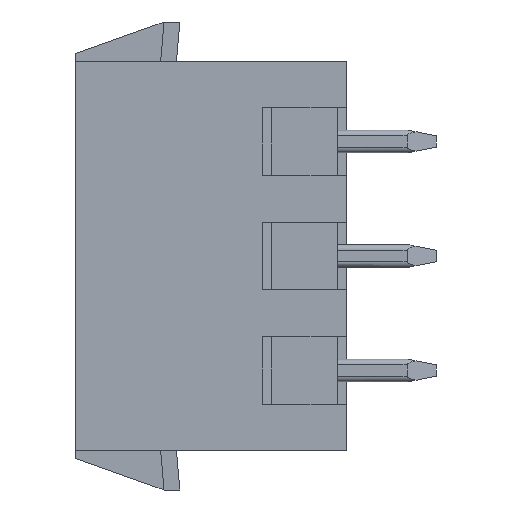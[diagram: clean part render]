
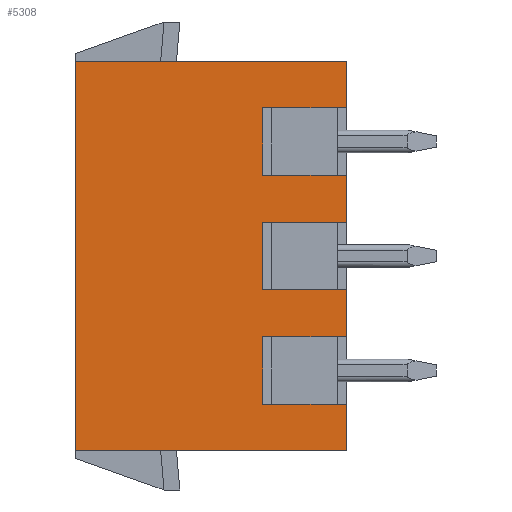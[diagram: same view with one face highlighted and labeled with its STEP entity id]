
A CAD part, left-side view. The second image highlights one B-rep face of the part: STEP entity #5308.
In plain terms, the highlighted planar face has unit normal (-1, 0, 0).
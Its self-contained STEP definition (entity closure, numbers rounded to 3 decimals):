
#89=DIRECTION('',(0.,0.,-1.));
#90=VECTOR('',#89,17.24);
#91=CARTESIAN_POINT('',(0.,12.,6.08));
#92=LINE('',#91,#90);
#204=DIRECTION('',(0.,1.,0.));
#205=VECTOR('',#204,12.);
#206=CARTESIAN_POINT('',(0.,0.,6.08));
#207=LINE('',#206,#205);
#1980=DIRECTION('',(0.,0.,-1.));
#1981=VECTOR('',#1980,3.);
#1982=CARTESIAN_POINT('',(0.,3.7,4.04));
#1983=LINE('',#1982,#1981);
#1984=DIRECTION('',(0.,-1.,0.));
#1985=VECTOR('',#1984,3.7);
#1986=CARTESIAN_POINT('',(0.,3.7,1.04));
#1987=LINE('',#1986,#1985);
#1988=DIRECTION('',(0.,0.,-1.));
#1989=VECTOR('',#1988,2.08);
#1990=CARTESIAN_POINT('',(0.,0.,1.04));
#1991=LINE('',#1990,#1989);
#1992=DIRECTION('',(0.,1.,0.));
#1993=VECTOR('',#1992,3.7);
#1994=CARTESIAN_POINT('',(0.,0.,-1.04));
#1995=LINE('',#1994,#1993);
#1996=DIRECTION('',(0.,0.,-1.));
#1997=VECTOR('',#1996,3.);
#1998=CARTESIAN_POINT('',(0.,3.7,-1.04));
#1999=LINE('',#1998,#1997);
#2000=DIRECTION('',(0.,-1.,0.));
#2001=VECTOR('',#2000,3.7);
#2002=CARTESIAN_POINT('',(0.,3.7,-4.04));
#2003=LINE('',#2002,#2001);
#2004=DIRECTION('',(0.,0.,-1.));
#2005=VECTOR('',#2004,2.08);
#2006=CARTESIAN_POINT('',(0.,0.,-4.04));
#2007=LINE('',#2006,#2005);
#2008=DIRECTION('',(0.,1.,0.));
#2009=VECTOR('',#2008,3.7);
#2010=CARTESIAN_POINT('',(0.,0.,-6.12));
#2011=LINE('',#2010,#2009);
#2012=DIRECTION('',(0.,0.,-1.));
#2013=VECTOR('',#2012,3.);
#2014=CARTESIAN_POINT('',(0.,3.7,-6.12));
#2015=LINE('',#2014,#2013);
#2016=DIRECTION('',(0.,-1.,0.));
#2017=VECTOR('',#2016,3.7);
#2018=CARTESIAN_POINT('',(0.,3.7,-9.12));
#2019=LINE('',#2018,#2017);
#2020=DIRECTION('',(0.,0.,-1.));
#2021=VECTOR('',#2020,2.04);
#2022=CARTESIAN_POINT('',(0.,0.,-9.12));
#2023=LINE('',#2022,#2021);
#2024=DIRECTION('',(0.,1.,0.));
#2025=VECTOR('',#2024,12.);
#2026=CARTESIAN_POINT('',(0.,0.,-11.16));
#2027=LINE('',#2026,#2025);
#2028=DIRECTION('',(0.,0.,-1.));
#2029=VECTOR('',#2028,2.04);
#2030=CARTESIAN_POINT('',(0.,0.,6.08));
#2031=LINE('',#2030,#2029);
#2032=DIRECTION('',(0.,1.,0.));
#2033=VECTOR('',#2032,3.7);
#2034=CARTESIAN_POINT('',(0.,0.,4.04));
#2035=LINE('',#2034,#2033);
#2204=CARTESIAN_POINT('',(0.,12.,-11.16));
#2205=VERTEX_POINT('',#2204);
#2206=CARTESIAN_POINT('',(0.,0.,-11.16));
#2207=VERTEX_POINT('',#2206);
#2256=CARTESIAN_POINT('',(0.,12.,6.08));
#2257=VERTEX_POINT('',#2256);
#2314=CARTESIAN_POINT('',(0.,0.,6.08));
#2315=VERTEX_POINT('',#2314);
#2463=CARTESIAN_POINT('',(0.,0.,-1.04));
#2464=VERTEX_POINT('',#2463);
#2465=CARTESIAN_POINT('',(0.,0.,1.04));
#2466=VERTEX_POINT('',#2465);
#2469=CARTESIAN_POINT('',(0.,3.7,-1.04));
#2470=VERTEX_POINT('',#2469);
#2534=CARTESIAN_POINT('',(0.,0.,-4.04));
#2535=VERTEX_POINT('',#2534);
#2536=CARTESIAN_POINT('',(0.,3.7,-4.04));
#2537=VERTEX_POINT('',#2536);
#2540=CARTESIAN_POINT('',(0.,0.,-6.12));
#2541=VERTEX_POINT('',#2540);
#2544=CARTESIAN_POINT('',(0.,3.7,-6.12));
#2545=VERTEX_POINT('',#2544);
#2607=CARTESIAN_POINT('',(0.,3.7,-9.12));
#2608=CARTESIAN_POINT('',(0.,0.,-9.12));
#2609=VERTEX_POINT('',#2607);
#2610=VERTEX_POINT('',#2608);
#2613=CARTESIAN_POINT('',(0.,3.7,4.04));
#2614=CARTESIAN_POINT('',(0.,3.7,1.04));
#2615=VERTEX_POINT('',#2613);
#2616=VERTEX_POINT('',#2614);
#2617=CARTESIAN_POINT('',(0.,0.,4.04));
#2618=VERTEX_POINT('',#2617);
#5281=CARTESIAN_POINT('',(0.,12.,-11.16));
#5282=DIRECTION('',(-1.,0.,0.));
#5283=DIRECTION('',(0.,-1.,0.));
#5284=AXIS2_PLACEMENT_3D('',#5281,#5282,#5283);
#5285=PLANE('',#5284);
#5287=ORIENTED_EDGE('',*,*,#5286,.T.);
#5288=ORIENTED_EDGE('',*,*,#5122,.T.);
#5289=ORIENTED_EDGE('',*,*,#5153,.T.);
#5290=ORIENTED_EDGE('',*,*,#5169,.T.);
#5291=ORIENTED_EDGE('',*,*,#5183,.T.);
#5292=ORIENTED_EDGE('',*,*,#5198,.T.);
#5293=ORIENTED_EDGE('',*,*,#5228,.T.);
#5294=ORIENTED_EDGE('',*,*,#5244,.T.);
#5295=ORIENTED_EDGE('',*,*,#5258,.T.);
#5296=ORIENTED_EDGE('',*,*,#5269,.T.);
#5298=ORIENTED_EDGE('',*,*,#5297,.T.);
#5299=ORIENTED_EDGE('',*,*,#2765,.T.);
#5300=ORIENTED_EDGE('',*,*,#2908,.F.);
#5301=ORIENTED_EDGE('',*,*,#2987,.F.);
#5303=ORIENTED_EDGE('',*,*,#5302,.T.);
#5305=ORIENTED_EDGE('',*,*,#5304,.T.);
#5306=EDGE_LOOP('',(#5287,#5288,#5289,#5290,#5291,#5292,#5293,#5294,#5295,#5296,
#5298,#5299,#5300,#5301,#5303,#5305));
#5307=FACE_OUTER_BOUND('',#5306,.F.);
#5308=ADVANCED_FACE('',(#5307),#5285,.T.);
#2765=EDGE_CURVE('',#2207,#2205,#2027,.T.);
#2908=EDGE_CURVE('',#2257,#2205,#92,.T.);
#2987=EDGE_CURVE('',#2315,#2257,#207,.T.);
#5122=EDGE_CURVE('',#2616,#2466,#1987,.T.);
#5153=EDGE_CURVE('',#2466,#2464,#1991,.T.);
#5169=EDGE_CURVE('',#2464,#2470,#1995,.T.);
#5183=EDGE_CURVE('',#2470,#2537,#1999,.T.);
#5198=EDGE_CURVE('',#2537,#2535,#2003,.T.);
#5228=EDGE_CURVE('',#2535,#2541,#2007,.T.);
#5244=EDGE_CURVE('',#2541,#2545,#2011,.T.);
#5258=EDGE_CURVE('',#2545,#2609,#2015,.T.);
#5269=EDGE_CURVE('',#2609,#2610,#2019,.T.);
#5286=EDGE_CURVE('',#2615,#2616,#1983,.T.);
#5297=EDGE_CURVE('',#2610,#2207,#2023,.T.);
#5302=EDGE_CURVE('',#2315,#2618,#2031,.T.);
#5304=EDGE_CURVE('',#2618,#2615,#2035,.T.);
